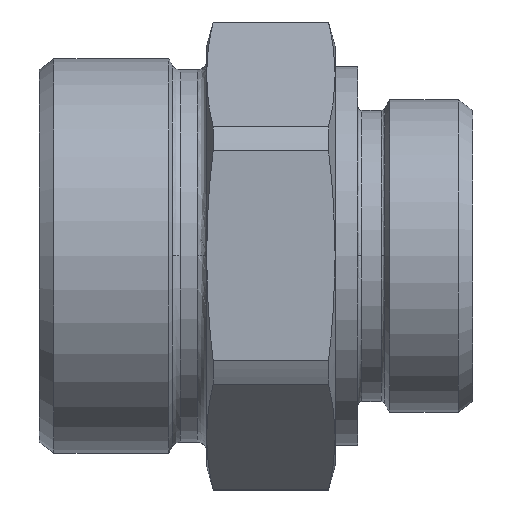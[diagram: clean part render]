
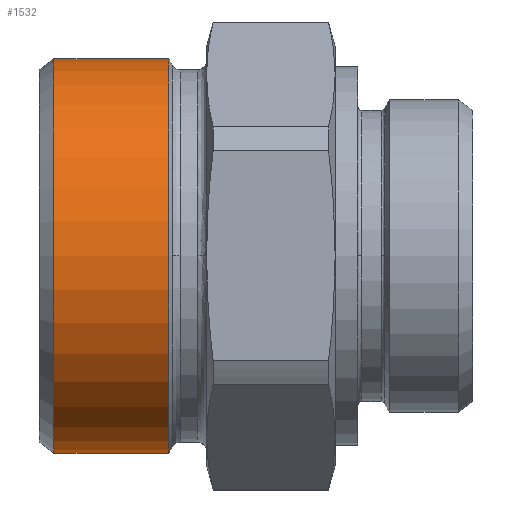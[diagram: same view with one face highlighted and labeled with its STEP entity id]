
A CAD part, top view. The second image highlights one B-rep face of the part: STEP entity #1532.
In plain terms, the highlighted cylindrical face has radius 25.91 mm (diameter 51.82 mm), a partial arc.
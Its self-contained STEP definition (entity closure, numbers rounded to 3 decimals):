
#766=CARTESIAN_POINT('',(0.,-25.91,28.513));
#767=VERTEX_POINT('',#766);
#768=CARTESIAN_POINT('',(0.,-25.91,13.443));
#769=VERTEX_POINT('',#768);
#770=CARTESIAN_POINT('',(0.,-25.91,28.513));
#771=DIRECTION('',(0.0,0.0,-1.0));
#772=VECTOR('',#771,15.07);
#773=LINE('',#770,#772);
#774=EDGE_CURVE('',#767,#769,#773,.T.);
#776=CARTESIAN_POINT('',(0.,25.91,28.513));
#777=VERTEX_POINT('',#776);
#785=CARTESIAN_POINT('',(0.,25.91,13.443));
#786=VERTEX_POINT('',#785);
#787=CARTESIAN_POINT('',(0.,25.91,13.443));
#788=DIRECTION('',(0.0,0.0,1.0));
#789=VECTOR('',#788,15.07);
#790=LINE('',#787,#789);
#791=EDGE_CURVE('',#786,#777,#790,.T.);
#1408=CARTESIAN_POINT('',(0.,0.,13.443));
#1409=DIRECTION('',(0.0,0.0,-1.0));
#1410=DIRECTION('',(0.0,-1.0,0.0));
#1411=AXIS2_PLACEMENT_3D('',#1408,#1409,#1410);
#1412=CIRCLE('',#1411,25.91);
#1413=EDGE_CURVE('',#786,#769,#1412,.T.);
#1509=CARTESIAN_POINT('',(0.,0.,28.513));
#1510=DIRECTION('',(0.0,0.0,-1.0));
#1511=DIRECTION('',(0.0,-1.0,0.0));
#1512=AXIS2_PLACEMENT_3D('',#1509,#1510,#1511);
#1513=CIRCLE('',#1512,25.91);
#1514=EDGE_CURVE('',#777,#767,#1513,.T.);
#1521=CARTESIAN_POINT('',(0.,0.,20.978));
#1522=DIRECTION('',(0.,0.,-1.0));
#1523=DIRECTION('',(0.0,-1.0,0.0));
#1524=AXIS2_PLACEMENT_3D('',#1521,#1522,#1523);
#1525=CYLINDRICAL_SURFACE('',#1524,25.91);
#1526=ORIENTED_EDGE('',*,*,#774,.T.);
#1527=ORIENTED_EDGE('',*,*,#1413,.F.);
#1528=ORIENTED_EDGE('',*,*,#791,.T.);
#1529=ORIENTED_EDGE('',*,*,#1514,.T.);
#1530=EDGE_LOOP('',(#1526,#1527,#1528,#1529));
#1531=FACE_OUTER_BOUND('',#1530,.T.);
#1532=ADVANCED_FACE('',(#1531),#1525,.T.);
